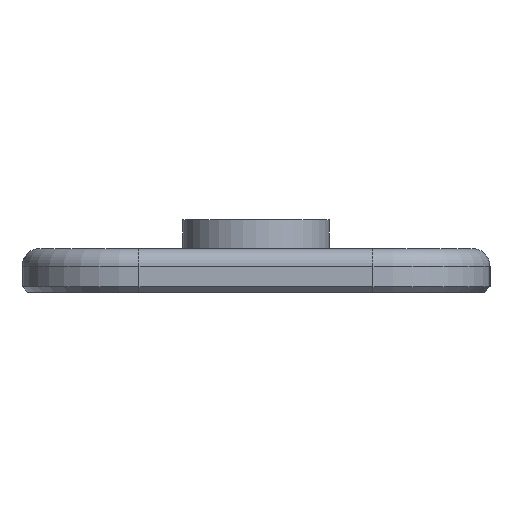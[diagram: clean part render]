
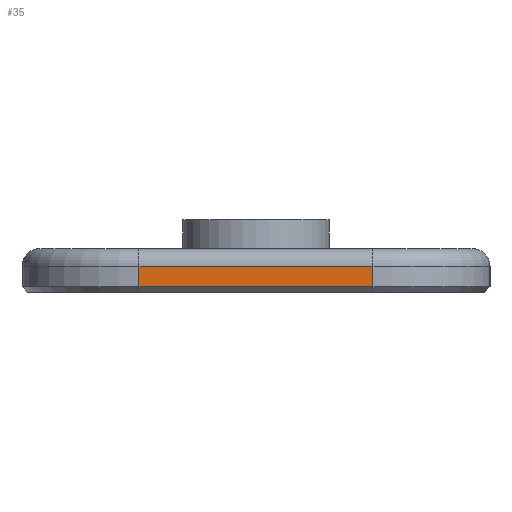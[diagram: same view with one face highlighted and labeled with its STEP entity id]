
A CAD part, left-side view. The second image highlights one B-rep face of the part: STEP entity #35.
In plain terms, the highlighted planar face has unit normal (-1, 0, 0).
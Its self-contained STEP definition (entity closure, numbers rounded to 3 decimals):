
#35 = ADVANCED_FACE('',(#36),#50,.T.);
#36 = FACE_BOUND('',#37,.T.);
#37 = EDGE_LOOP('',(#38,#73,#101,#129));
#38 = ORIENTED_EDGE('',*,*,#39,.T.);
#39 = EDGE_CURVE('',#40,#42,#44,.T.);
#40 = VERTEX_POINT('',#41);
#41 = CARTESIAN_POINT('',(-78.,-4.,0.2));
#42 = VERTEX_POINT('',#43);
#43 = CARTESIAN_POINT('',(-78.,-4.,0.9));
#44 = SURFACE_CURVE('',#45,(#49,#61),.PCURVE_S1.);
#45 = LINE('',#46,#47);
#46 = CARTESIAN_POINT('',(-78.,-4.,0.));
#47 = VECTOR('',#48,1.);
#48 = DIRECTION('',(0.,0.,1.));
#49 = PCURVE('',#50,#55);
#50 = PLANE('',#51);
#51 = AXIS2_PLACEMENT_3D('',#52,#53,#54);
#52 = CARTESIAN_POINT('',(-78.,-4.,0.));
#53 = DIRECTION('',(-1.,0.,0.));
#54 = DIRECTION('',(0.,1.,0.));
#55 = DEFINITIONAL_REPRESENTATION('',(#56),#60);
#56 = LINE('',#57,#58);
#57 = CARTESIAN_POINT('',(0.,0.));
#58 = VECTOR('',#59,1.);
#59 = DIRECTION('',(0.,-1.));
#60 = ( GEOMETRIC_REPRESENTATION_CONTEXT(2) 
PARAMETRIC_REPRESENTATION_CONTEXT() REPRESENTATION_CONTEXT('2D SPACE',''
  ) );
#61 = PCURVE('',#62,#67);
#62 = CYLINDRICAL_SURFACE('',#63,4.);
#63 = AXIS2_PLACEMENT_3D('',#64,#65,#66);
#64 = CARTESIAN_POINT('',(-74.,-4.,0.));
#65 = DIRECTION('',(-0.,-0.,-1.));
#66 = DIRECTION('',(1.,0.,0.));
#67 = DEFINITIONAL_REPRESENTATION('',(#68),#72);
#68 = LINE('',#69,#70);
#69 = CARTESIAN_POINT('',(-3.142,0.));
#70 = VECTOR('',#71,1.);
#71 = DIRECTION('',(-0.,-1.));
#72 = ( GEOMETRIC_REPRESENTATION_CONTEXT(2) 
PARAMETRIC_REPRESENTATION_CONTEXT() REPRESENTATION_CONTEXT('2D SPACE',''
  ) );
#73 = ORIENTED_EDGE('',*,*,#74,.T.);
#74 = EDGE_CURVE('',#42,#75,#77,.T.);
#75 = VERTEX_POINT('',#76);
#76 = CARTESIAN_POINT('',(-78.,4.,0.9));
#77 = SURFACE_CURVE('',#78,(#82,#89),.PCURVE_S1.);
#78 = LINE('',#79,#80);
#79 = CARTESIAN_POINT('',(-78.,-4.,0.9));
#80 = VECTOR('',#81,1.);
#81 = DIRECTION('',(0.,1.,0.));
#82 = PCURVE('',#50,#83);
#83 = DEFINITIONAL_REPRESENTATION('',(#84),#88);
#84 = LINE('',#85,#86);
#85 = CARTESIAN_POINT('',(0.,-0.9));
#86 = VECTOR('',#87,1.);
#87 = DIRECTION('',(1.,0.));
#88 = ( GEOMETRIC_REPRESENTATION_CONTEXT(2) 
PARAMETRIC_REPRESENTATION_CONTEXT() REPRESENTATION_CONTEXT('2D SPACE',''
  ) );
#89 = PCURVE('',#90,#95);
#90 = CYLINDRICAL_SURFACE('',#91,0.6);
#91 = AXIS2_PLACEMENT_3D('',#92,#93,#94);
#92 = CARTESIAN_POINT('',(-77.4,-4.,0.9));
#93 = DIRECTION('',(0.,1.,0.));
#94 = DIRECTION('',(-1.,0.,0.));
#95 = DEFINITIONAL_REPRESENTATION('',(#96),#100);
#96 = LINE('',#97,#98);
#97 = CARTESIAN_POINT('',(0.,0.));
#98 = VECTOR('',#99,1.);
#99 = DIRECTION('',(0.,1.));
#100 = ( GEOMETRIC_REPRESENTATION_CONTEXT(2) 
PARAMETRIC_REPRESENTATION_CONTEXT() REPRESENTATION_CONTEXT('2D SPACE',''
  ) );
#101 = ORIENTED_EDGE('',*,*,#102,.F.);
#102 = EDGE_CURVE('',#103,#75,#105,.T.);
#103 = VERTEX_POINT('',#104);
#104 = CARTESIAN_POINT('',(-78.,4.,0.2));
#105 = SURFACE_CURVE('',#106,(#110,#117),.PCURVE_S1.);
#106 = LINE('',#107,#108);
#107 = CARTESIAN_POINT('',(-78.,4.,0.));
#108 = VECTOR('',#109,1.);
#109 = DIRECTION('',(0.,0.,1.));
#110 = PCURVE('',#50,#111);
#111 = DEFINITIONAL_REPRESENTATION('',(#112),#116);
#112 = LINE('',#113,#114);
#113 = CARTESIAN_POINT('',(8.,0.));
#114 = VECTOR('',#115,1.);
#115 = DIRECTION('',(0.,-1.));
#116 = ( GEOMETRIC_REPRESENTATION_CONTEXT(2) 
PARAMETRIC_REPRESENTATION_CONTEXT() REPRESENTATION_CONTEXT('2D SPACE',''
  ) );
#117 = PCURVE('',#118,#123);
#118 = CYLINDRICAL_SURFACE('',#119,4.);
#119 = AXIS2_PLACEMENT_3D('',#120,#121,#122);
#120 = CARTESIAN_POINT('',(-74.,4.,0.));
#121 = DIRECTION('',(-0.,-0.,-1.));
#122 = DIRECTION('',(1.,0.,0.));
#123 = DEFINITIONAL_REPRESENTATION('',(#124),#128);
#124 = LINE('',#125,#126);
#125 = CARTESIAN_POINT('',(-3.142,0.));
#126 = VECTOR('',#127,1.);
#127 = DIRECTION('',(-0.,-1.));
#128 = ( GEOMETRIC_REPRESENTATION_CONTEXT(2) 
PARAMETRIC_REPRESENTATION_CONTEXT() REPRESENTATION_CONTEXT('2D SPACE',''
  ) );
#129 = ORIENTED_EDGE('',*,*,#130,.F.);
#130 = EDGE_CURVE('',#40,#103,#131,.T.);
#131 = SURFACE_CURVE('',#132,(#136,#143),.PCURVE_S1.);
#132 = LINE('',#133,#134);
#133 = CARTESIAN_POINT('',(-78.,-4.,0.2));
#134 = VECTOR('',#135,1.);
#135 = DIRECTION('',(0.,1.,0.));
#136 = PCURVE('',#50,#137);
#137 = DEFINITIONAL_REPRESENTATION('',(#138),#142);
#138 = LINE('',#139,#140);
#139 = CARTESIAN_POINT('',(0.,-0.2));
#140 = VECTOR('',#141,1.);
#141 = DIRECTION('',(1.,0.));
#142 = ( GEOMETRIC_REPRESENTATION_CONTEXT(2) 
PARAMETRIC_REPRESENTATION_CONTEXT() REPRESENTATION_CONTEXT('2D SPACE',''
  ) );
#143 = PCURVE('',#144,#149);
#144 = PLANE('',#145);
#145 = AXIS2_PLACEMENT_3D('',#146,#147,#148);
#146 = CARTESIAN_POINT('',(-77.9,-4.,0.1));
#147 = DIRECTION('',(0.707,0.,0.707)
  );
#148 = DIRECTION('',(0.,-1.,0.));
#149 = DEFINITIONAL_REPRESENTATION('',(#150),#154);
#150 = LINE('',#151,#152);
#151 = CARTESIAN_POINT('',(-0.,-0.141));
#152 = VECTOR('',#153,1.);
#153 = DIRECTION('',(-1.,0.));
#154 = ( GEOMETRIC_REPRESENTATION_CONTEXT(2) 
PARAMETRIC_REPRESENTATION_CONTEXT() REPRESENTATION_CONTEXT('2D SPACE',''
  ) );
